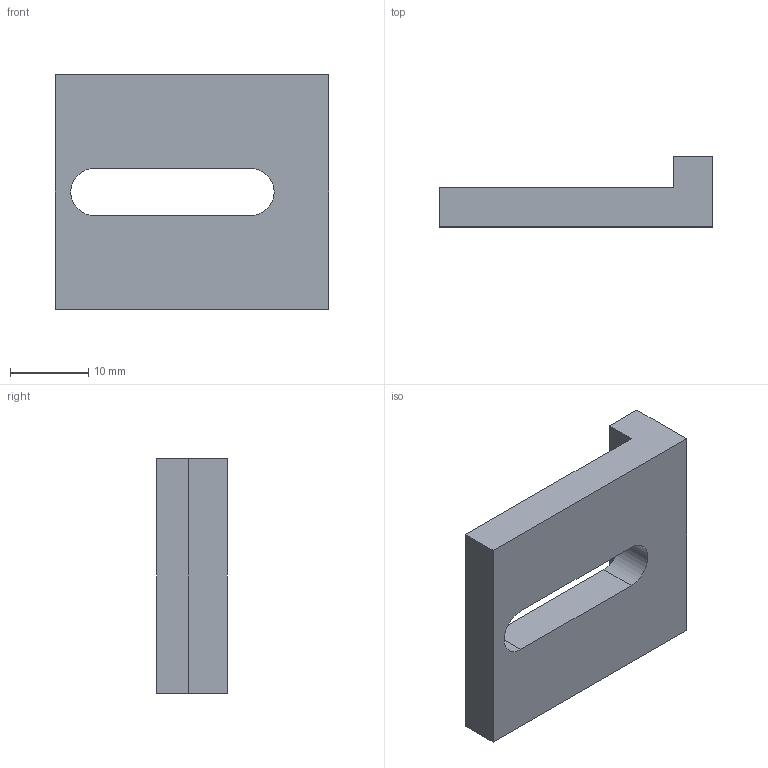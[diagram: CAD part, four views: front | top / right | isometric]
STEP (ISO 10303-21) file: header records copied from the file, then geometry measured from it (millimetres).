
FILE_DESCRIPTION(/* description */ (''),/* implementation_level */ '2;1');
FILE_NAME(/* name */ '',/* time_stamp */ '2025-09-04T16:32:06+08:00',/* author */ ('Q'),/* organization */ (''),/* preprocessor_version */ 'ST-DEVELOPER v20',/* originating_system */ 'Autodesk Inventor 2025',/* authorisation */ '');
FILE_SCHEMA (('AUTOMOTIVE_DESIGN { 1 0 10303 214 3 1 1 }'));
Length unit declared in the file: centimetre
Products named in the file (1): 压板
Bounding box: 35 x 9 x 30 mm (x, y, z)
Volume: 5108.6 mm3; surface area: 3027.7 mm2
Topology: 1 solids, 1 shells, 12 faces, 44 edges, 48 vertices
Faces by surface type: plane 10, cylinder 2
Entity records: 475 total; most frequent: CARTESIAN_POINT 91, DIRECTION 64, ORIENTED_EDGE 60, EDGE_CURVE 30, LINE 26, VECTOR 26, VERTEX_POINT 20, AXIS2_PLACEMENT_3D 19
